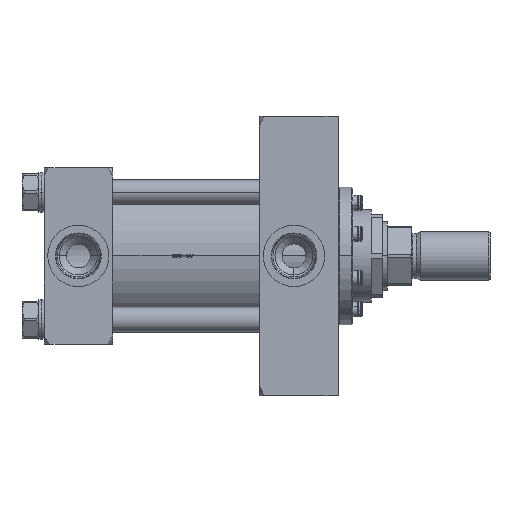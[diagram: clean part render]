
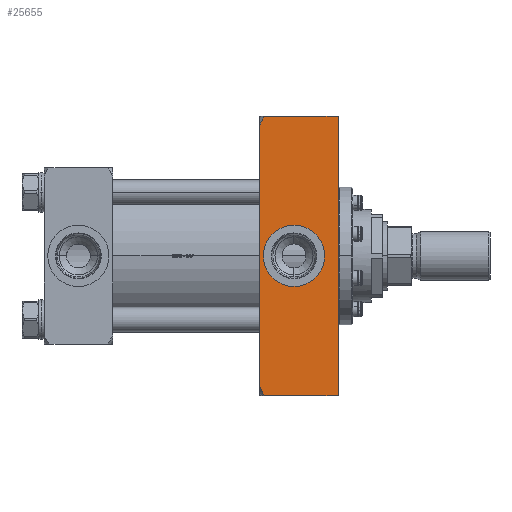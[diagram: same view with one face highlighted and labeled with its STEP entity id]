
A CAD part, top view. The second image highlights one B-rep face of the part: STEP entity #25655.
In plain terms, the highlighted planar face has unit normal (0, 0, 1).
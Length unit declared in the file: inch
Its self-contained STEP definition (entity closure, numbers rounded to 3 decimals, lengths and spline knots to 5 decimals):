
#493 = VERTEX_POINT ( 'NONE', #85051 ) ;
#1156 = CARTESIAN_POINT ( 'NONE',  ( -3.875, -3.2625, 2.25 ) ) ;
#4800 = CARTESIAN_POINT ( 'NONE',  ( -3.86063, -3.35735, 2.25 ) ) ;
#4875 = CARTESIAN_POINT ( 'NONE',  ( -3.87403, 3.2902, 2.25 ) ) ;
#5148 = CARTESIAN_POINT ( 'NONE',  ( -3., 0., 2.25 ) ) ;
#5830 = CARTESIAN_POINT ( 'NONE',  ( -3.76644, 3.54029, 2.25 ) ) ;
#7788 = LINE ( 'NONE', #23380, #78758 ) ;
#8079 = DIRECTION ( 'NONE',  ( 0., 1., 0. ) ) ;
#8867 = LINE ( 'NONE', #91745, #76655 ) ;
#9027 = EDGE_CURVE ( 'NONE', #493, #66721, #7788, .T. ) ;
#9335 = FACE_BOUND ( 'NONE', #87459, .T. ) ;
#10114 = VERTEX_POINT ( 'NONE', #16464 ) ;
#10730 = EDGE_LOOP ( 'NONE', ( #91432, #12886, #31236, #52206, #93462, #13137 ) ) ;
#10825 = FACE_OUTER_BOUND ( 'NONE', #10730, .T. ) ;
#11906 = EDGE_CURVE ( 'NONE', #17415, #68855, #50656, .T. ) ;
#12147 = CARTESIAN_POINT ( 'NONE',  ( -3.82394, -3.44614, 2.25 ) ) ;
#12701 = CARTESIAN_POINT ( 'NONE',  ( -3.78159, 3.51767, 2.25 ) ) ;
#12725 = CARTESIAN_POINT ( 'NONE',  ( -3.875, -3.5625, 2.25 ) ) ;
#12886 = ORIENTED_EDGE ( 'NONE', *, *, #9027, .T. ) ;
#13137 = ORIENTED_EDGE ( 'NONE', *, *, #64941, .F. ) ;
#14560 = ORIENTED_EDGE ( 'NONE', *, *, #85970, .T. ) ;
#16464 = CARTESIAN_POINT ( 'NONE',  ( -3., -0.7815, 2.25 ) ) ;
#17415 = VERTEX_POINT ( 'NONE', #44734 ) ;
#18975 = CARTESIAN_POINT ( 'NONE',  ( -3.76658, -3.5401, 2.25 ) ) ;
#19438 = CIRCLE ( 'NONE', #81609, 0.7815 ) ;
#20021 = CARTESIAN_POINT ( 'NONE',  ( -3.86747, 3.33134, 2.25 ) ) ;
#20411 = CARTESIAN_POINT ( 'NONE',  ( -3.875, -3.29006, 2.25 ) ) ;
#20888 = CARTESIAN_POINT ( 'NONE',  ( -3.87115, -3.31719, 2.25 ) ) ;
#20929 = CARTESIAN_POINT ( 'NONE',  ( -1.875, -3.5625, 2.25 ) ) ;
#20987 = CARTESIAN_POINT ( 'NONE',  ( -3.875, 3.5625, 2.25 ) ) ;
#23380 = CARTESIAN_POINT ( 'NONE',  ( -3.875, -3.5625, 2.25 ) ) ;
#25655 = ADVANCED_FACE ( 'NONE', ( #10825, #9335 ), #47301, .F. ) ;
#26734 = CARTESIAN_POINT ( 'NONE',  ( -3.84136, -3.40891, 2.25 ) ) ;
#27757 = CARTESIAN_POINT ( 'NONE',  ( -3.85694, 3.37123, 2.25 ) ) ;
#29688 = EDGE_CURVE ( 'NONE', #66721, #68855, #57979, .T. ) ;
#31236 = ORIENTED_EDGE ( 'NONE', *, *, #29688, .T. ) ;
#34602 = CARTESIAN_POINT ( 'NONE',  ( -3.84702, 3.3969, 2.25 ) ) ;
#37784 = CARTESIAN_POINT ( 'NONE',  ( -3., 0., 2.25 ) ) ;
#40055 = CARTESIAN_POINT ( 'NONE',  ( -3.875, 3.2625, 2.25 ) ) ;
#42725 = CARTESIAN_POINT ( 'NONE',  ( -3.78188, -3.51724, 2.25 ) ) ;
#42808 = CARTESIAN_POINT ( 'NONE',  ( -3.875, 3.27637, 2.25 ) ) ;
#43785 = DIRECTION ( 'NONE',  ( 1., 0., 0. ) ) ;
#44734 = CARTESIAN_POINT ( 'NONE',  ( -3.75074, 3.5625, 2.25 ) ) ;
#44905 = CIRCLE ( 'NONE', #74502, 0.7815 ) ;
#47301 = PLANE ( 'NONE',  #59858 ) ;
#47650 = EDGE_CURVE ( 'NONE', #82574, #17415, #71001, .T. ) ;
#49687 = CARTESIAN_POINT ( 'NONE',  ( -3.82347, 3.44706, 2.25 ) ) ;
#50176 = CARTESIAN_POINT ( 'NONE',  ( -3.875, 3.2625, 2.25 ) ) ;
#50656 = LINE ( 'NONE', #20987, #90901 ) ;
#52206 = ORIENTED_EDGE ( 'NONE', *, *, #11906, .F. ) ;
#52766 = VECTOR ( 'NONE', #71093, 39.37008 ) ;
#54480 = VERTEX_POINT ( 'NONE', #1156 ) ;
#56512 = CARTESIAN_POINT ( 'NONE',  ( -3.75074, -3.5625, 2.25 ) ) ;
#57979 = LINE ( 'NONE', #20929, #52766 ) ;
#58048 = DIRECTION ( 'NONE',  ( 0., 1., 0. ) ) ;
#59598 = CARTESIAN_POINT ( 'NONE',  ( -1.875, 3.5625, 2.25 ) ) ;
#59858 = AXIS2_PLACEMENT_3D ( 'NONE', #12725, #78921, #58048 ) ;
#60420 = DIRECTION ( 'NONE',  ( 1., 0., 0. ) ) ;
#61535 = CARTESIAN_POINT ( 'NONE',  ( -3., 0.7815, 2.25 ) ) ;
#62758 = VERTEX_POINT ( 'NONE', #61535 ) ;
#64352 = CARTESIAN_POINT ( 'NONE',  ( -3.87025, 3.31781, 2.25 ) ) ;
#64642 = DIRECTION ( 'NONE',  ( 0., 1., 0. ) ) ;
#64941 = EDGE_CURVE ( 'NONE', #54480, #82574, #8867, .T. ) ;
#66721 = VERTEX_POINT ( 'NONE', #92165 ) ;
#66857 = ORIENTED_EDGE ( 'NONE', *, *, #93185, .T. ) ;
#67423 = EDGE_CURVE ( 'NONE', #493, #54480, #81784, .T. ) ;
#68855 = VERTEX_POINT ( 'NONE', #59598 ) ;
#69259 = DIRECTION ( 'NONE',  ( 0., 1., 0. ) ) ;
#71001 = B_SPLINE_CURVE_WITH_KNOTS ( 'NONE', 3,
 ( #50176, #42808, #4875, #64352, #20021, #27757, #34602, #49687, #79376, #12701, #5830, #72088 ),
 .UNSPECIFIED., .F., .F.,
 ( 4, 2, 2, 2, 2, 4 ),
 ( 0.00462, 0.00565, 0.00669, 0.00876, 0.01083, 0.01291 ),
 .UNSPECIFIED. ) ;
#71093 = DIRECTION ( 'NONE',  ( 0., 1., 0. ) ) ;
#72088 = CARTESIAN_POINT ( 'NONE',  ( -3.75074, 3.5625, 2.25 ) ) ;
#72495 = CARTESIAN_POINT ( 'NONE',  ( -3.875, -3.2625, 2.25 ) ) ;
#74502 = AXIS2_PLACEMENT_3D ( 'NONE', #37784, #89971, #8079 ) ;
#76655 = VECTOR ( 'NONE', #69259, 39.37008 ) ;
#78758 = VECTOR ( 'NONE', #60420, 39.37008 ) ;
#78921 = DIRECTION ( 'NONE',  ( 0., 0., -1. ) ) ;
#79376 = CARTESIAN_POINT ( 'NONE',  ( -3.81009, 3.47107, 2.25 ) ) ;
#79671 = DIRECTION ( 'NONE',  ( 0., 0., -1. ) ) ;
#81609 = AXIS2_PLACEMENT_3D ( 'NONE', #5148, #79671, #64642 ) ;
#81784 = B_SPLINE_CURVE_WITH_KNOTS ( 'NONE', 3,
 ( #56512, #18975, #42725, #94047, #12147, #26734, #87137, #95013, #4800, #20888, #20411, #72495 ),
 .UNSPECIFIED., .F., .F.,
 ( 4, 2, 2, 2, 2, 4 ),
 ( 0.0094, 0.01149, 0.01358, 0.01462, 0.01566, 0.01775 ),
 .UNSPECIFIED. ) ;
#82574 = VERTEX_POINT ( 'NONE', #40055 ) ;
#85051 = CARTESIAN_POINT ( 'NONE',  ( -3.75074, -3.5625, 2.25 ) ) ;
#85970 = EDGE_CURVE ( 'NONE', #10114, #62758, #44905, .T. ) ;
#87137 = CARTESIAN_POINT ( 'NONE',  ( -3.84673, -3.39629, 2.25 ) ) ;
#87459 = EDGE_LOOP ( 'NONE', ( #66857, #14560 ) ) ;
#89971 = DIRECTION ( 'NONE',  ( 0., 0., -1. ) ) ;
#90901 = VECTOR ( 'NONE', #43785, 39.37008 ) ;
#91432 = ORIENTED_EDGE ( 'NONE', *, *, #67423, .F. ) ;
#91745 = CARTESIAN_POINT ( 'NONE',  ( -3.875, -3.5625, 2.25 ) ) ;
#92165 = CARTESIAN_POINT ( 'NONE',  ( -1.875, -3.5625, 2.25 ) ) ;
#93185 = EDGE_CURVE ( 'NONE', #62758, #10114, #19438, .T. ) ;
#93462 = ORIENTED_EDGE ( 'NONE', *, *, #47650, .F. ) ;
#94047 = CARTESIAN_POINT ( 'NONE',  ( -3.81062, -3.47016, 2.25 ) ) ;
#95013 = CARTESIAN_POINT ( 'NONE',  ( -3.85636, -3.37055, 2.25 ) ) ;
